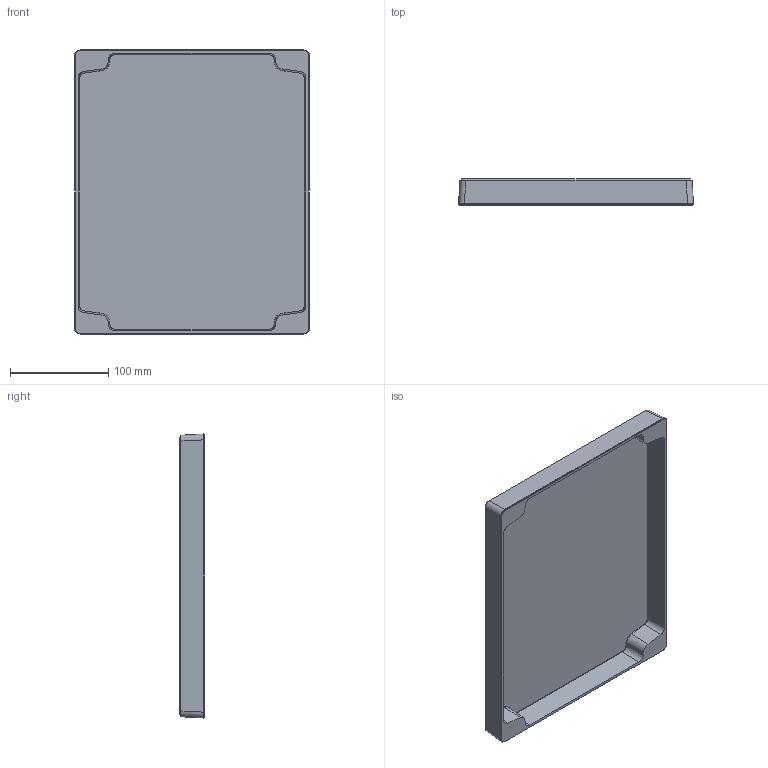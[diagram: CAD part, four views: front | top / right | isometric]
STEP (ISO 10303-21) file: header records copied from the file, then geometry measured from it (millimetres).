
FILE_DESCRIPTION (( 'STEP AP214' ), '1' );
FILE_NAME ('FIBOX TEMPO 2924 Cover.STEP', '2006-11-28T10:15:41', ( 'JuhaniH' ), ( 'Fibox Oy' ), 'SwSTEP 2.0', 'SolidWorks 2006233', '' );
FILE_SCHEMA (( 'AUTOMOTIVE_DESIGN' ));
Length unit declared in the file: millimetre
Products named in the file (1): FIBOX TEMPO 2924 Cover
Bounding box: 238.9 x 26 x 288.9 mm (x, y, z)
Volume: 296201 mm3; surface area: 185984.2 mm2
Topology: 1 solids, 1 shells, 88 faces, 208 edges, 128 vertices
Faces by surface type: plane 32, cone 20, cylinder 16, torus 12, bspline 8
Entity records: 2911 total; most frequent: CARTESIAN_POINT 885, DIRECTION 418, ORIENTED_EDGE 416, EDGE_CURVE 208, AXIS2_PLACEMENT_3D 157, VERTEX_POINT 128, VECTOR 104, LINE 104
